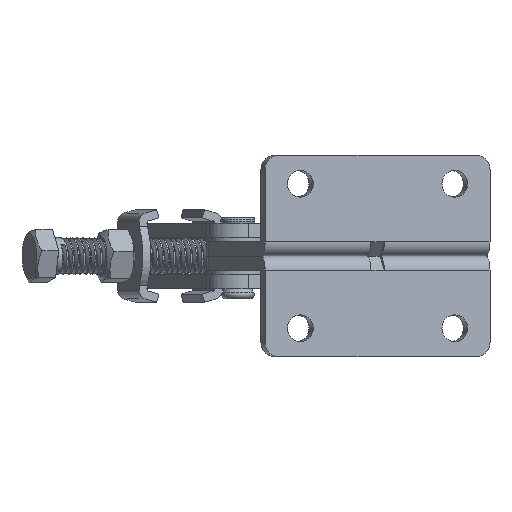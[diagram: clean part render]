
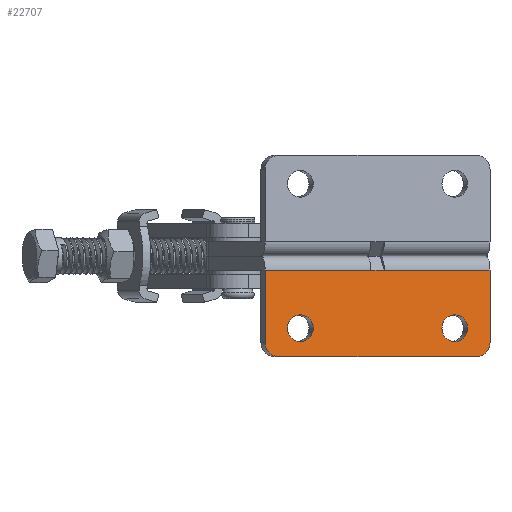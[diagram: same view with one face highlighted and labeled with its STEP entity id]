
A CAD part, front view. The second image highlights one B-rep face of the part: STEP entity #22707.
In plain terms, the highlighted planar face has unit normal (0.295, -0.955, 0) as drawn and (0, -1, 0) by its records, which use the part's own axes.
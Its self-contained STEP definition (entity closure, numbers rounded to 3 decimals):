
#634=FACE_BOUND('',#3689,.T.);
#635=FACE_BOUND('',#3690,.T.);
#735=PLANE('',#24292);
#2360=FACE_OUTER_BOUND('',#3688,.T.);
#3688=EDGE_LOOP('',(#15441,#15442,#15443,#15444,#15445,#15446,#15447,#15448));
#3689=EDGE_LOOP('',(#15449,#15450));
#3690=EDGE_LOOP('',(#15451,#15452));
#5099=LINE('',#30740,#7052);
#5116=LINE('',#30785,#7069);
#5117=LINE('',#30787,#7070);
#5118=LINE('',#30788,#7071);
#5119=LINE('',#30790,#7072);
#5120=LINE('',#30791,#7073);
#7052=VECTOR('',#25791,1000.);
#7069=VECTOR('',#25838,1000.);
#7070=VECTOR('',#25839,1000.);
#7071=VECTOR('',#25840,1000.);
#7072=VECTOR('',#25841,1000.);
#7073=VECTOR('',#25842,1000.);
#9008=CIRCLE('',#24262,4.75);
#9009=CIRCLE('',#24263,4.75);
#9012=CIRCLE('',#24267,4.75);
#9013=CIRCLE('',#24268,4.75);
#9021=CIRCLE('',#24286,5.);
#9024=CIRCLE('',#24291,5.);
#9556=VERTEX_POINT('',#30662);
#9557=VERTEX_POINT('',#30663);
#9560=VERTEX_POINT('',#30672);
#9561=VERTEX_POINT('',#30673);
#9572=VERTEX_POINT('',#30736);
#9574=VERTEX_POINT('',#30739);
#9579=VERTEX_POINT('',#30757);
#9580=VERTEX_POINT('',#30761);
#9582=VERTEX_POINT('',#30766);
#9587=VERTEX_POINT('',#30781);
#9588=VERTEX_POINT('',#30786);
#9589=VERTEX_POINT('',#30789);
#11846=EDGE_CURVE('',#9556,#9557,#9008,.T.);
#11847=EDGE_CURVE('',#9557,#9556,#9009,.T.);
#11851=EDGE_CURVE('',#9560,#9561,#9012,.T.);
#11852=EDGE_CURVE('',#9561,#9560,#9013,.T.);
#11865=EDGE_CURVE('',#9574,#9572,#5099,.T.);
#11878=EDGE_CURVE('',#9582,#9574,#9021,.T.);
#11886=EDGE_CURVE('',#9572,#9587,#9024,.T.);
#11888=EDGE_CURVE('',#9579,#9580,#5116,.T.);
#11889=EDGE_CURVE('',#9588,#9580,#5117,.T.);
#11890=EDGE_CURVE('',#9588,#9582,#5118,.T.);
#11891=EDGE_CURVE('',#9587,#9589,#5119,.T.);
#11892=EDGE_CURVE('',#9579,#9589,#5120,.T.);
#15441=ORIENTED_EDGE('',*,*,#11888,.T.);
#15442=ORIENTED_EDGE('',*,*,#11889,.F.);
#15443=ORIENTED_EDGE('',*,*,#11890,.T.);
#15444=ORIENTED_EDGE('',*,*,#11878,.T.);
#15445=ORIENTED_EDGE('',*,*,#11865,.T.);
#15446=ORIENTED_EDGE('',*,*,#11886,.T.);
#15447=ORIENTED_EDGE('',*,*,#11891,.T.);
#15448=ORIENTED_EDGE('',*,*,#11892,.F.);
#15449=ORIENTED_EDGE('',*,*,#11851,.T.);
#15450=ORIENTED_EDGE('',*,*,#11852,.T.);
#15451=ORIENTED_EDGE('',*,*,#11846,.T.);
#15452=ORIENTED_EDGE('',*,*,#11847,.T.);
#22707=ADVANCED_FACE('',(#2360,#634,#635),#735,.T.);
#24262=AXIS2_PLACEMENT_3D('',#30664,#25756,#25757);
#24263=AXIS2_PLACEMENT_3D('',#30665,#25758,#25759);
#24267=AXIS2_PLACEMENT_3D('',#30674,#25767,#25768);
#24268=AXIS2_PLACEMENT_3D('',#30675,#25769,#25770);
#24286=AXIS2_PLACEMENT_3D('',#30767,#25818,#25819);
#24291=AXIS2_PLACEMENT_3D('',#30782,#25833,#25834);
#24292=AXIS2_PLACEMENT_3D('',#30784,#25836,#25837);
#25756=DIRECTION('center_axis',(0.,1.,0.));
#25757=DIRECTION('ref_axis',(0.,0.,1.));
#25758=DIRECTION('center_axis',(0.,1.,0.));
#25759=DIRECTION('ref_axis',(0.,0.,1.));
#25767=DIRECTION('center_axis',(0.,1.,0.));
#25768=DIRECTION('ref_axis',(0.,0.,1.));
#25769=DIRECTION('center_axis',(0.,1.,0.));
#25770=DIRECTION('ref_axis',(0.,0.,1.));
#25791=DIRECTION('',(1.,0.,0.));
#25818=DIRECTION('center_axis',(0.,-1.,0.));
#25819=DIRECTION('ref_axis',(0.,0.,1.));
#25833=DIRECTION('center_axis',(0.,-1.,0.));
#25834=DIRECTION('ref_axis',(0.,0.,1.));
#25836=DIRECTION('center_axis',(0.,-1.,0.));
#25837=DIRECTION('ref_axis',(0.,0.,-1.));
#25838=DIRECTION('',(-1.,0.,0.));
#25839=DIRECTION('',(1.,0.,0.));
#25840=DIRECTION('',(0.,0.,-1.));
#25841=DIRECTION('',(0.,0.,1.));
#25842=DIRECTION('',(1.,0.,0.));
#30662=CARTESIAN_POINT('',(13.,0.,-20.75));
#30663=CARTESIAN_POINT('',(13.,0.,-30.25));
#30664=CARTESIAN_POINT('Origin',(13.,0.,-25.5));
#30665=CARTESIAN_POINT('Origin',(13.,0.,-25.5));
#30672=CARTESIAN_POINT('',(70.,0.,-20.75));
#30673=CARTESIAN_POINT('',(70.,0.,-30.25));
#30674=CARTESIAN_POINT('Origin',(70.,0.,-25.5));
#30675=CARTESIAN_POINT('Origin',(70.,0.,-25.5));
#30736=CARTESIAN_POINT('',(78.,0.,-35.5));
#30739=CARTESIAN_POINT('',(5.,0.,-35.5));
#30740=CARTESIAN_POINT('',(78.,0.,-35.5));
#30757=CARTESIAN_POINT('',(44.,0.,-5.));
#30761=CARTESIAN_POINT('',(39.,0.,-5.));
#30766=CARTESIAN_POINT('',(0.,0.,-30.5));
#30767=CARTESIAN_POINT('Origin',(5.,0.,-30.5));
#30781=CARTESIAN_POINT('',(83.,0.,-30.5));
#30782=CARTESIAN_POINT('Origin',(78.,0.,-30.5));
#30784=CARTESIAN_POINT('Origin',(78.,0.,-30.5));
#30785=CARTESIAN_POINT('',(39.,0.,-5.));
#30786=CARTESIAN_POINT('',(0.,0.,-5.));
#30787=CARTESIAN_POINT('',(78.,0.,-5.));
#30788=CARTESIAN_POINT('',(0.,0.,-5.));
#30789=CARTESIAN_POINT('',(83.,0.,-5.));
#30790=CARTESIAN_POINT('',(83.,0.,-5.));
#30791=CARTESIAN_POINT('',(78.,0.,-5.));
